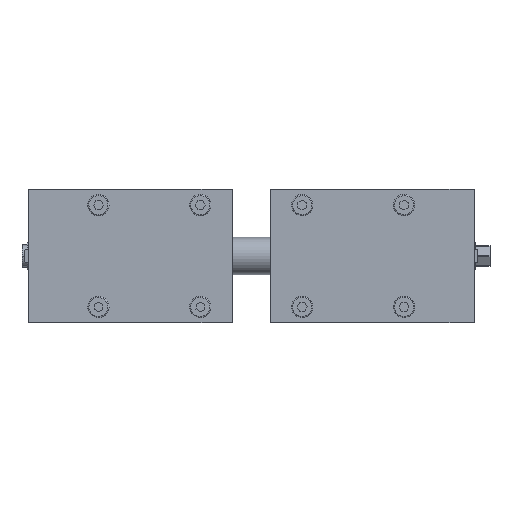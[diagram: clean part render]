
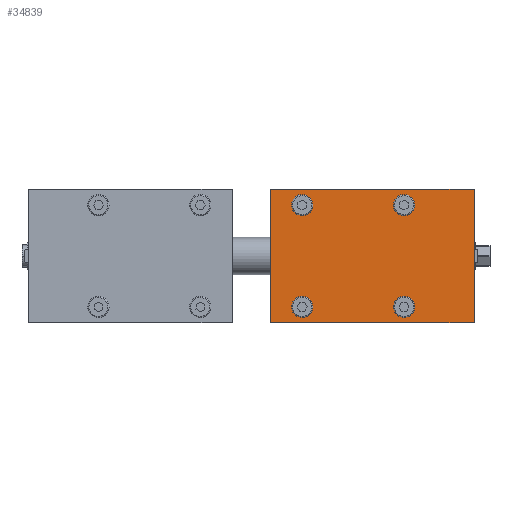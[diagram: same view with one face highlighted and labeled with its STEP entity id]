
A CAD part, front view. The second image highlights one B-rep face of the part: STEP entity #34839.
In plain terms, the highlighted planar face has unit normal (0, -1, 0).
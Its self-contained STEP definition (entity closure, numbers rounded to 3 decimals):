
#780 = VERTEX_POINT ( 'NONE', #31423 ) ;
#845 = CARTESIAN_POINT ( 'NONE',  ( 144., 0., 48. ) ) ;
#1085 = DIRECTION ( 'NONE',  ( 0., 1., 0. ) ) ;
#1493 = VECTOR ( 'NONE', #28347, 1000. ) ;
#2369 = EDGE_CURVE ( 'NONE', #38059, #7281, #31316, .T. ) ;
#2506 = EDGE_LOOP ( 'NONE', ( #48301, #14506, #4506, #28671 ) ) ;
#2773 = ORIENTED_EDGE ( 'NONE', *, *, #13547, .T. ) ;
#2929 = CARTESIAN_POINT ( 'NONE',  ( 48., 0., 48. ) ) ;
#4506 = ORIENTED_EDGE ( 'NONE', *, *, #39958, .T. ) ;
#5215 = AXIS2_PLACEMENT_3D ( 'NONE', #16897, #32345, #43805 ) ;
#5971 = FACE_BOUND ( 'NONE', #30760, .T. ) ;
#6147 = VERTEX_POINT ( 'NONE', #17600 ) ;
#6365 = DIRECTION ( 'NONE',  ( 0., 0., -1. ) ) ;
#6596 = CARTESIAN_POINT ( 'NONE',  ( 48., 0., -40. ) ) ;
#6696 = CARTESIAN_POINT ( 'NONE',  ( 210.01, 0., -62.8 ) ) ;
#6782 = DIRECTION ( 'NONE',  ( 0., 0., -1. ) ) ;
#7281 = VERTEX_POINT ( 'NONE', #46646 ) ;
#7766 = DIRECTION ( 'NONE',  ( 0., 1., 0. ) ) ;
#8710 = LINE ( 'NONE', #23622, #41188 ) ;
#9173 = DIRECTION ( 'NONE',  ( 0., -1., 0. ) ) ;
#9657 = FACE_BOUND ( 'NONE', #43471, .T. ) ;
#10028 = CIRCLE ( 'NONE', #17027, 8. ) ;
#10354 = CARTESIAN_POINT ( 'NONE',  ( 48., 0., 56. ) ) ;
#10723 = VERTEX_POINT ( 'NONE', #6596 ) ;
#11614 = LINE ( 'NONE', #44840, #36784 ) ;
#12837 = FACE_BOUND ( 'NONE', #15148, .T. ) ;
#13547 = EDGE_CURVE ( 'NONE', #18849, #35714, #10028, .T. ) ;
#14357 = ORIENTED_EDGE ( 'NONE', *, *, #22612, .T. ) ;
#14377 = AXIS2_PLACEMENT_3D ( 'NONE', #40100, #36381, #36161 ) ;
#14506 = ORIENTED_EDGE ( 'NONE', *, *, #35335, .T. ) ;
#14868 = CIRCLE ( 'NONE', #28150, 8. ) ;
#15148 = EDGE_LOOP ( 'NONE', ( #39194, #30149 ) ) ;
#15374 = CIRCLE ( 'NONE', #32696, 8. ) ;
#16823 = ORIENTED_EDGE ( 'NONE', *, *, #18209, .T. ) ;
#16897 = CARTESIAN_POINT ( 'NONE',  ( 48., 0., -48. ) ) ;
#17027 = AXIS2_PLACEMENT_3D ( 'NONE', #41101, #34231, #22764 ) ;
#17395 = VERTEX_POINT ( 'NONE', #38422 ) ;
#17600 = CARTESIAN_POINT ( 'NONE',  ( 144., 0., 40. ) ) ;
#17874 = AXIS2_PLACEMENT_3D ( 'NONE', #33847, #30188, #25589 ) ;
#18209 = EDGE_CURVE ( 'NONE', #35714, #18849, #21768, .T. ) ;
#18293 = CARTESIAN_POINT ( 'NONE',  ( 48., 0., 48. ) ) ;
#18849 = VERTEX_POINT ( 'NONE', #34656 ) ;
#19873 = EDGE_CURVE ( 'NONE', #47824, #7281, #8710, .T. ) ;
#19981 = CARTESIAN_POINT ( 'NONE',  ( 210.01, 0., -62.8 ) ) ;
#20312 = AXIS2_PLACEMENT_3D ( 'NONE', #2929, #32739, #6782 ) ;
#20736 = AXIS2_PLACEMENT_3D ( 'NONE', #845, #1085, #30899 ) ;
#21263 = CARTESIAN_POINT ( 'NONE',  ( 18.01, 0., 62.8 ) ) ;
#21768 = CIRCLE ( 'NONE', #17874, 8. ) ;
#22612 = EDGE_CURVE ( 'NONE', #6147, #780, #15374, .T. ) ;
#22764 = DIRECTION ( 'NONE',  ( 0., 0., -1. ) ) ;
#23176 = CARTESIAN_POINT ( 'NONE',  ( 48., 0., -56. ) ) ;
#23262 = VERTEX_POINT ( 'NONE', #10354 ) ;
#23622 = CARTESIAN_POINT ( 'NONE',  ( 210.2, 0., -62.8 ) ) ;
#25109 = ORIENTED_EDGE ( 'NONE', *, *, #39671, .T. ) ;
#25589 = DIRECTION ( 'NONE',  ( 0., 0., -1. ) ) ;
#26484 = ORIENTED_EDGE ( 'NONE', *, *, #39480, .T. ) ;
#26547 = CARTESIAN_POINT ( 'NONE',  ( 144., 0., -40. ) ) ;
#27096 = CIRCLE ( 'NONE', #5215, 8. ) ;
#27566 = VERTEX_POINT ( 'NONE', #39963 ) ;
#28150 = AXIS2_PLACEMENT_3D ( 'NONE', #18293, #7766, #37334 ) ;
#28347 = DIRECTION ( 'NONE',  ( 0., 0., -1. ) ) ;
#28671 = ORIENTED_EDGE ( 'NONE', *, *, #2369, .T. ) ;
#28672 = EDGE_CURVE ( 'NONE', #10723, #30198, #27096, .T. ) ;
#30149 = ORIENTED_EDGE ( 'NONE', *, *, #28672, .T. ) ;
#30188 = DIRECTION ( 'NONE',  ( 0., 1., 0. ) ) ;
#30198 = VERTEX_POINT ( 'NONE', #23176 ) ;
#30314 = EDGE_LOOP ( 'NONE', ( #25109, #26484 ) ) ;
#30760 = EDGE_LOOP ( 'NONE', ( #14357, #43690 ) ) ;
#30899 = DIRECTION ( 'NONE',  ( 0., 0., -1. ) ) ;
#31316 = LINE ( 'NONE', #46920, #1493 ) ;
#31423 = CARTESIAN_POINT ( 'NONE',  ( 144., 0., 56. ) ) ;
#32345 = DIRECTION ( 'NONE',  ( 0., 1., 0. ) ) ;
#32696 = AXIS2_PLACEMENT_3D ( 'NONE', #41022, #44677, #6365 ) ;
#32739 = DIRECTION ( 'NONE',  ( 0., 1., 0. ) ) ;
#33847 = CARTESIAN_POINT ( 'NONE',  ( 144., 0., -48. ) ) ;
#34231 = DIRECTION ( 'NONE',  ( 0., 1., 0. ) ) ;
#34376 = EDGE_CURVE ( 'NONE', #30198, #10723, #37030, .T. ) ;
#34656 = CARTESIAN_POINT ( 'NONE',  ( 144., 0., -56. ) ) ;
#34839 = ADVANCED_FACE ( 'NONE', ( #47295, #5971, #9657, #12837, #39487 ), #43630, .T. ) ;
#35074 = EDGE_CURVE ( 'NONE', #780, #6147, #41838, .T. ) ;
#35335 = EDGE_CURVE ( 'NONE', #47824, #27566, #38583, .T. ) ;
#35399 = DIRECTION ( 'NONE',  ( 0., 0., 1. ) ) ;
#35714 = VERTEX_POINT ( 'NONE', #26547 ) ;
#36047 = CARTESIAN_POINT ( 'NONE',  ( 210.2, 0., 62.8 ) ) ;
#36161 = DIRECTION ( 'NONE',  ( 0., 0., -1. ) ) ;
#36381 = DIRECTION ( 'NONE',  ( 0., 1., 0. ) ) ;
#36784 = VECTOR ( 'NONE', #41216, 1000. ) ;
#37030 = CIRCLE ( 'NONE', #14377, 8. ) ;
#37133 = AXIS2_PLACEMENT_3D ( 'NONE', #36047, #9173, #47057 ) ;
#37334 = DIRECTION ( 'NONE',  ( 0., 0., -1. ) ) ;
#38059 = VERTEX_POINT ( 'NONE', #21263 ) ;
#38422 = CARTESIAN_POINT ( 'NONE',  ( 48., 0., 40. ) ) ;
#38583 = LINE ( 'NONE', #19981, #45758 ) ;
#39194 = ORIENTED_EDGE ( 'NONE', *, *, #34376, .T. ) ;
#39480 = EDGE_CURVE ( 'NONE', #23262, #17395, #41430, .T. ) ;
#39487 = FACE_OUTER_BOUND ( 'NONE', #2506, .T. ) ;
#39671 = EDGE_CURVE ( 'NONE', #17395, #23262, #14868, .T. ) ;
#39958 = EDGE_CURVE ( 'NONE', #27566, #38059, #11614, .T. ) ;
#39963 = CARTESIAN_POINT ( 'NONE',  ( 210.01, 0., 62.8 ) ) ;
#40100 = CARTESIAN_POINT ( 'NONE',  ( 48., 0., -48. ) ) ;
#41022 = CARTESIAN_POINT ( 'NONE',  ( 144., 0., 48. ) ) ;
#41101 = CARTESIAN_POINT ( 'NONE',  ( 144., 0., -48. ) ) ;
#41188 = VECTOR ( 'NONE', #45362, 1000. ) ;
#41216 = DIRECTION ( 'NONE',  ( -1., 0., 0. ) ) ;
#41430 = CIRCLE ( 'NONE', #20312, 8. ) ;
#41838 = CIRCLE ( 'NONE', #20736, 8. ) ;
#43471 = EDGE_LOOP ( 'NONE', ( #2773, #16823 ) ) ;
#43630 = PLANE ( 'NONE',  #37133 ) ;
#43690 = ORIENTED_EDGE ( 'NONE', *, *, #35074, .T. ) ;
#43805 = DIRECTION ( 'NONE',  ( 0., 0., -1. ) ) ;
#44677 = DIRECTION ( 'NONE',  ( 0., 1., 0. ) ) ;
#44840 = CARTESIAN_POINT ( 'NONE',  ( 210.2, 0., 62.8 ) ) ;
#45362 = DIRECTION ( 'NONE',  ( -1., 0., 0. ) ) ;
#45758 = VECTOR ( 'NONE', #35399, 1000. ) ;
#46646 = CARTESIAN_POINT ( 'NONE',  ( 18.01, 0., -62.8 ) ) ;
#46920 = CARTESIAN_POINT ( 'NONE',  ( 18.01, 0., -62.8 ) ) ;
#47057 = DIRECTION ( 'NONE',  ( 0., 0., -1. ) ) ;
#47295 = FACE_BOUND ( 'NONE', #30314, .T. ) ;
#47824 = VERTEX_POINT ( 'NONE', #6696 ) ;
#48301 = ORIENTED_EDGE ( 'NONE', *, *, #19873, .F. ) ;
